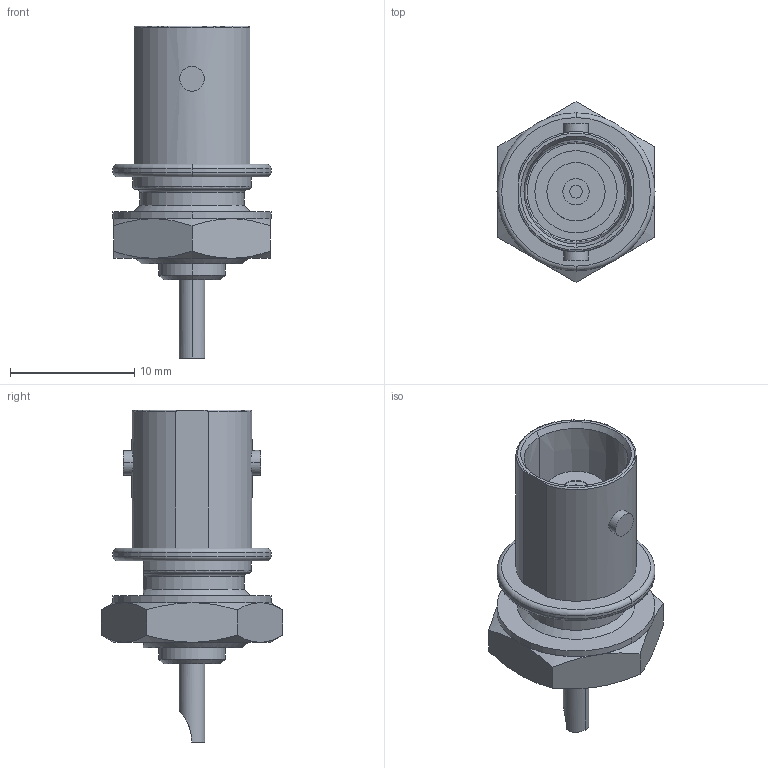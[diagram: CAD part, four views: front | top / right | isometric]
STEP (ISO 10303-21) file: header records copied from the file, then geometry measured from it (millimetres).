
FILE_DESCRIPTION((''),'2;1');
FILE_NAME('C-227754-2','2019-04-16T02:59:21',('workeradm'),('TE Connectivity Ltd.'),'CREO PARAMETRIC BY PTC INC, 2018190','CREO PARAMETRIC BY PTC INC, 2018190','');
FILE_SCHEMA(('AUTOMOTIVE_DESIGN { 1 0 10303 214 1 1 1 1 }'));
Length unit declared in the file: millimetre
Products named in the file (1): C-227754-2
Bounding box: 12.7 x 14.55 x 26.67 mm (x, y, z)
Volume: 1312.8 mm3; surface area: 1357.8 mm2
Topology: 1 solids, 1 shells, 84 faces, 182 edges, 114 vertices
Faces by surface type: plane 28, cylinder 26, cone 20, torus 10
Entity records: 2629 total; most frequent: CARTESIAN_POINT 760, DIRECTION 391, ORIENTED_EDGE 364, EDGE_CURVE 182, AXIS2_PLACEMENT_3D 169, VERTEX_POINT 114, EDGE_LOOP 98, CIRCLE 85
